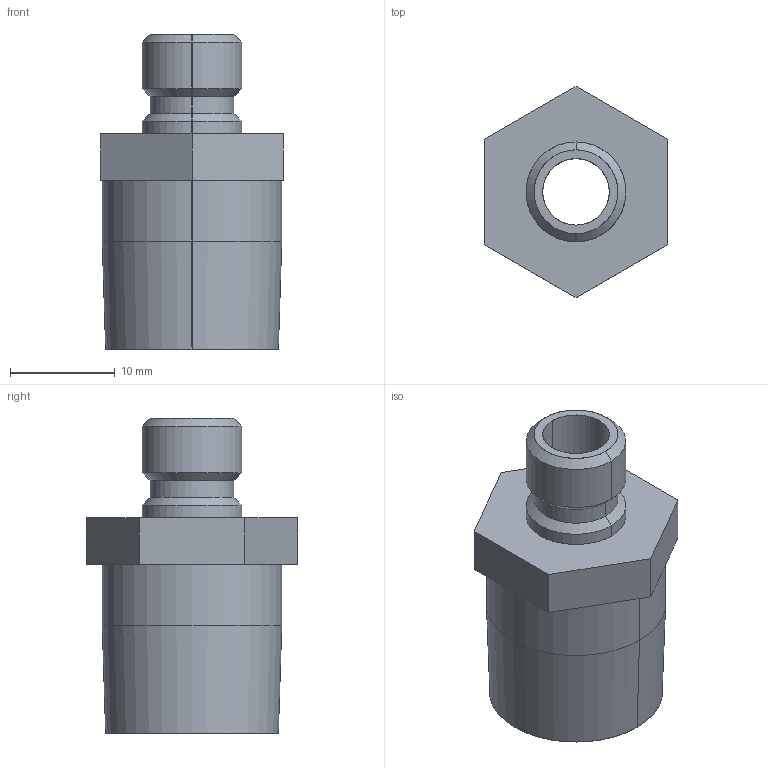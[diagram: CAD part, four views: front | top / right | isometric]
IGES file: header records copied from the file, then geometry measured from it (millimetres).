
Start section: SolidWorks IGES file using analytic representation for surfaces
Global section: file name: C:\Users\365admin\AppData\Local\Temp\InFlowConvert3DWorking\253-SS.igs; native system: SolidWorks 2019; preprocessor: SolidWorks 2019; author: 365admin; date: 220127.175857; units: inch
Bounding box: 17.46 x 20.16 x 30.16 mm (x, y, z)
Surface area: 2771.3 mm2 (no closed solid volume)
Topology: 0 solids, 0 shells, 31 faces, 372 edges, 372 vertices
Faces by surface type: revolution 20, bspline 11
